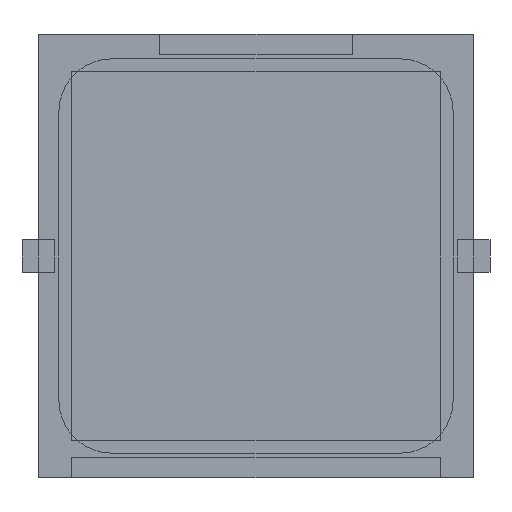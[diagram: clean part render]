
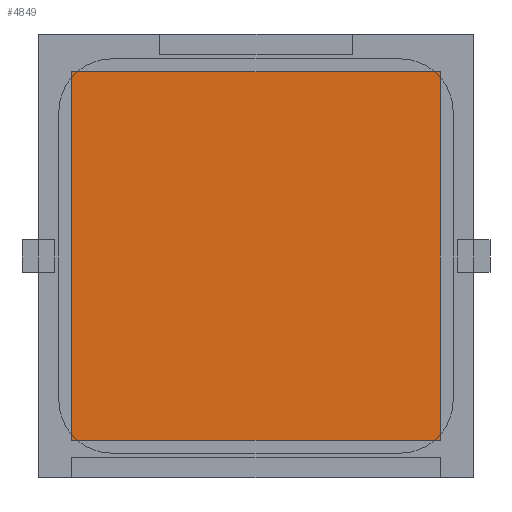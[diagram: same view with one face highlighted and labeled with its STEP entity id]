
A CAD part, front view. The second image highlights one B-rep face of the part: STEP entity #4849.
In plain terms, the highlighted planar face has unit normal (0, -1, 0).
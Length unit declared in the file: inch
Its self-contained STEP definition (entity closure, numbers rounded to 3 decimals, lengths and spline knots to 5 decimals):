
#197 = EDGE_CURVE ( 'NONE', #4665, #1394, #4882, .T. ) ;
#211 = CARTESIAN_POINT ( 'NONE',  ( -0.45276, -0.00346, 0.45276 ) ) ;
#1161 = VECTOR ( 'NONE', #5293, 39.37008 ) ;
#1394 = VERTEX_POINT ( 'NONE', #7426 ) ;
#1542 = CARTESIAN_POINT ( 'NONE',  ( -0.45276, -0.00346, 0.45276 ) ) ;
#1713 = ORIENTED_EDGE ( 'NONE', *, *, #3666, .T. ) ;
#1773 = VECTOR ( 'NONE', #3216, 39.37008 ) ;
#1836 = FACE_OUTER_BOUND ( 'NONE', #4532, .T. ) ;
#1866 = ORIENTED_EDGE ( 'NONE', *, *, #2928, .T. ) ;
#1986 = CARTESIAN_POINT ( 'NONE',  ( 0., -0.00346, 0. ) ) ;
#2045 = LINE ( 'NONE', #4574, #1161 ) ;
#2081 = CARTESIAN_POINT ( 'NONE',  ( -0.45276, -0.00346, 0.45276 ) ) ;
#2110 = DIRECTION ( 'NONE',  ( 0., -1., 0. ) ) ;
#2362 = CARTESIAN_POINT ( 'NONE',  ( 0.45276, -0.00346, -0.45276 ) ) ;
#2488 = VERTEX_POINT ( 'NONE', #2695 ) ;
#2637 = ORIENTED_EDGE ( 'NONE', *, *, #5324, .T. ) ;
#2695 = CARTESIAN_POINT ( 'NONE',  ( -0.45276, -0.00346, -0.45276 ) ) ;
#2705 = DIRECTION ( 'NONE',  ( -1., 0., 0. ) ) ;
#2928 = EDGE_CURVE ( 'NONE', #2488, #4665, #2045, .T. ) ;
#3021 = PLANE ( 'NONE',  #4604 ) ;
#3216 = DIRECTION ( 'NONE',  ( 0., 0., -1. ) ) ;
#3227 = VECTOR ( 'NONE', #5579, 39.37008 ) ;
#3374 = LINE ( 'NONE', #1542, #7787 ) ;
#3666 = EDGE_CURVE ( 'NONE', #5365, #2488, #7031, .T. ) ;
#4532 = EDGE_LOOP ( 'NONE', ( #6655, #2637, #1713, #1866 ) ) ;
#4574 = CARTESIAN_POINT ( 'NONE',  ( -0.45276, -0.00346, -0.45276 ) ) ;
#4604 = AXIS2_PLACEMENT_3D ( 'NONE', #1986, #2110, #7003 ) ;
#4665 = VERTEX_POINT ( 'NONE', #2362 ) ;
#4849 = ADVANCED_FACE ( 'NONE', ( #1836 ), #3021, .T. ) ;
#4882 = LINE ( 'NONE', #4995, #3227 ) ;
#4995 = CARTESIAN_POINT ( 'NONE',  ( 0.45276, -0.00346, 0.45276 ) ) ;
#5293 = DIRECTION ( 'NONE',  ( 1., 0., 0. ) ) ;
#5324 = EDGE_CURVE ( 'NONE', #1394, #5365, #3374, .T. ) ;
#5365 = VERTEX_POINT ( 'NONE', #2081 ) ;
#5579 = DIRECTION ( 'NONE',  ( 0., 0., 1. ) ) ;
#6655 = ORIENTED_EDGE ( 'NONE', *, *, #197, .T. ) ;
#7003 = DIRECTION ( 'NONE',  ( 0., 0., 1. ) ) ;
#7031 = LINE ( 'NONE', #211, #1773 ) ;
#7426 = CARTESIAN_POINT ( 'NONE',  ( 0.45276, -0.00346, 0.45276 ) ) ;
#7787 = VECTOR ( 'NONE', #2705, 39.37008 ) ;
